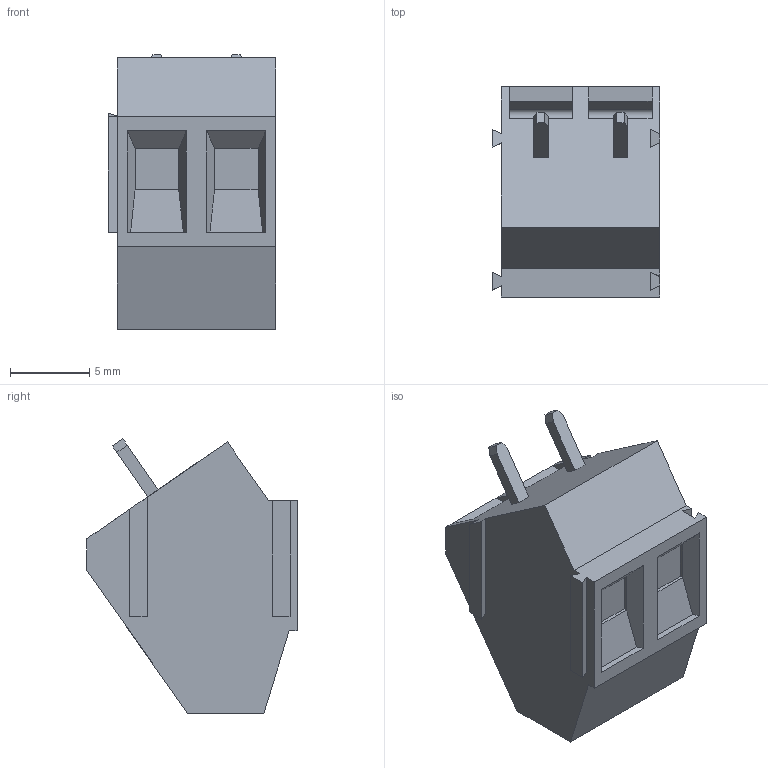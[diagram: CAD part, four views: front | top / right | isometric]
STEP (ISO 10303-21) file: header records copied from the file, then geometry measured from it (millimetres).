
FILE_DESCRIPTION (( 'STEP AP203' ), '1' );
FILE_NAME ('BR1002V.STEP', '2020-03-18T03:28:12', ( '' ), ( '' ), 'SwSTEP 2.0', 'SolidWorks 2019', '' );
FILE_SCHEMA (( 'CONFIG_CONTROL_DESIGN' ));
Length unit declared in the file: millimetre
Products named in the file (1): BR1002V
Bounding box: 10.58 x 13.25 x 17.3 mm (x, y, z)
Volume: 1316 mm3; surface area: 1243.8 mm2
Topology: 1 solids, 1 shells, 149 faces, 381 edges, 242 vertices
Faces by surface type: plane 109, cylinder 20, cone 12, torus 8
Entity records: 4564 total; most frequent: CARTESIAN_POINT 845, ORIENTED_EDGE 762, DIRECTION 737, EDGE_CURVE 381, VECTOR 309, LINE 309, VERTEX_POINT 242, AXIS2_PLACEMENT_3D 214
